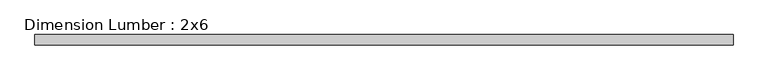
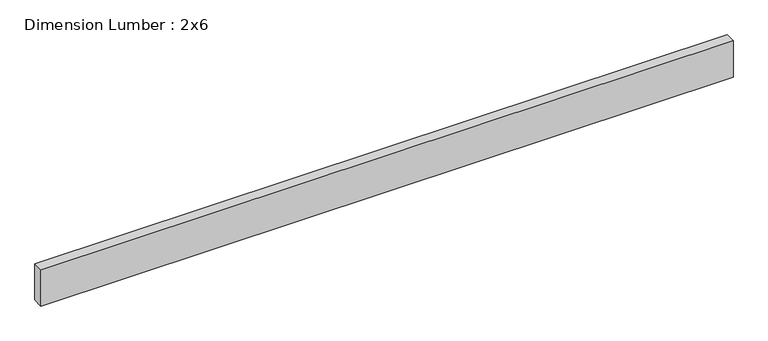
"""IFC4 building model written with IfcOpenShell, lengths in millimetres: beam geometry, Dimension Lumber : 2x6."""

from ifc_helpers import new_model, si_unit, frame, origin, place, context, project, spatial, polyline, outline, extrude, source, transform, mapped, element, save


def dimension_lumber_2x6_2ccf5596(model_context):
    return source(origin(), model_context, "Body", "SweptSolid", [
        extrude(outline(polyline([(1256.7137095, 19.05), (1256.7137095, -19.05), (-1256.7137095, -19.05), (-1256.7137095, 19.05), (1256.7137095, 19.05)])), frame((0.0, 0.0, -69.85), z_axis=(0.0, 0.0, 1.0), x_axis=(1.0, 0.0, 0.0)), (0.0, 0.0, 1.0), 139.7),
    ])


if __name__ == "__main__":
    model = new_model("IFC4")
    model_context = context("Model", 3, world=origin())
    ifc_project = project(units=[si_unit("LENGTHUNIT", "METRE", prefix="MILLI")], contexts=[model_context])
    site = spatial("IfcSite", under=ifc_project)
    building = spatial("IfcBuilding", under=site)
    placement = place(None, origin())
    dimension_lumber_2x6_shape = dimension_lumber_2x6_2ccf5596(model_context)
    element("IfcBeam", 1, ObjectType="Dimension Lumber : 2x6", at=placement, inside=building, context=model_context, shape_type="MappedRepresentation", body=[
        mapped(dimension_lumber_2x6_shape, transform((0.0, 0.0, 0.0), x_axis=(1.0, 0.0, 0.0), y_axis=(0.0, 1.0, 0.0), z_axis=(0.0, 0.0, 1.0))),
    ])
    save(model, "model.ifc")
